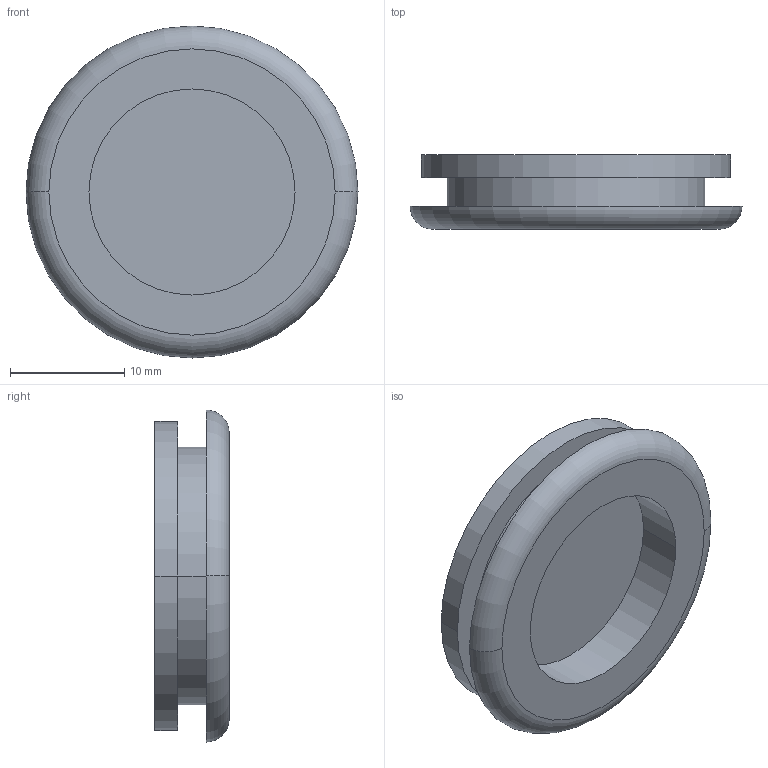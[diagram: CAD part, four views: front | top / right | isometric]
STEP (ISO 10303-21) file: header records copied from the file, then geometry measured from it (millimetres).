
FILE_DESCRIPTION( ('This file contains a STEP AP42 implementation' ,'as created by ZW3D STEP Interface translator.') ,'2;1' );
FILE_NAME( 'zkj-塑料挡圈.stp' ,'23 9 3.214432', (''), ('ZWCAD Software Co.'), 'Version 1.0', 'ZW3D to STEP translator', '' );
FILE_SCHEMA(('AUTOMOTIVE_DESIGN { 1 0 10303 214 1 1 1 1 }'));
Length unit declared in the file: millimetre
Products named in the file (2): 0; zkj-塑料挡圈
Bounding box: 29 x 6.5 x 29 mm (x, y, z)
Volume: 2366.5 mm3; surface area: 2345.7 mm2
Topology: 1 solids, 1 shells, 13 faces, 24 edges, 16 vertices
Faces by surface type: cylinder 6, plane 5, torus 2
Entity records: 379 total; most frequent: DIRECTION 70, CARTESIAN_POINT 54, ORIENTED_EDGE 48, AXIS2_PLACEMENT_3D 32, EDGE_CURVE 24, CIRCLE 18, VERTEX_POINT 16, EDGE_LOOP 16
